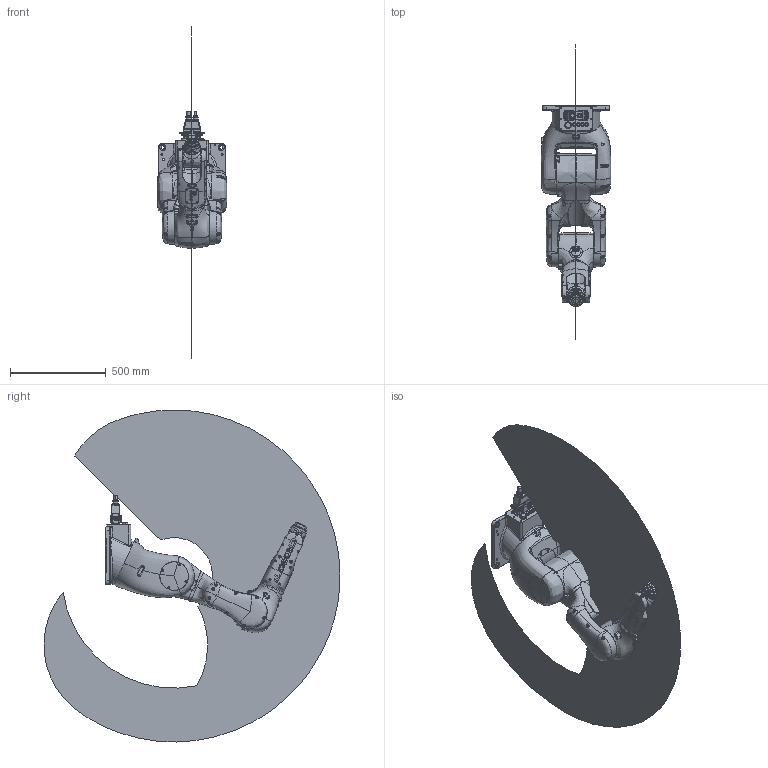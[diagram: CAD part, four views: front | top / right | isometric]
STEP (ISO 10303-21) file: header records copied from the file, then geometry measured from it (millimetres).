
FILE_DESCRIPTION (( 'STEP AP214' ), '1' );
FILE_NAME ('RA09-12-T3(T4) 六轴低负载高防护机器人-简化模型 2023.8.22.STEP', '2024-03-21T03:51:10', ( '' ), ( '' ), 'SwSTEP 2.0', 'SolidWorks 2021', '' );
FILE_SCHEMA (( 'AUTOMOTIVE_DESIGN' ));
Length unit declared in the file: millimetre
Products named in the file (9): RA09120004; RA09120005; RA09120002; RA09120003; RA09120006; RA09120001T3; RA09120008T3; RA09-12-T3(T4) 六轴低负载高防护机器人-简化模型 2023.8.22; RA09120007
Assembly tree (8 placements, depth 2):
  RA09-12-T3(T4) 六轴低负载高防护机器人-简化模型 2023.8.22
    RA09120001T3
    RA09120002
    RA09120004
    RA09120003
    RA09120005
    RA09120006
    RA09120007
    RA09120008T3
Bounding box: 365 x 1548.12 x 1736.78 mm (x, y, z)
Volume: 50660241.3 mm3; surface area: 3432118 mm2
Topology: 7 solids, 33 shells, 5742 faces, 14174 edges, 8485 vertices
Faces by surface type: cylinder 1839, bspline 1634, plane 1585, cone 398, torus 272, sphere 14
Entity records: 486662 total; most frequent: CARTESIAN_POINT 339032, ORIENTED_EDGE 27875, DIRECTION 22906, EDGE_CURVE 13940, AXIS2_PLACEMENT_3D 9026, VERTEX_POINT 8485, EDGE_LOOP 6104, ADVANCED_FACE 5742
